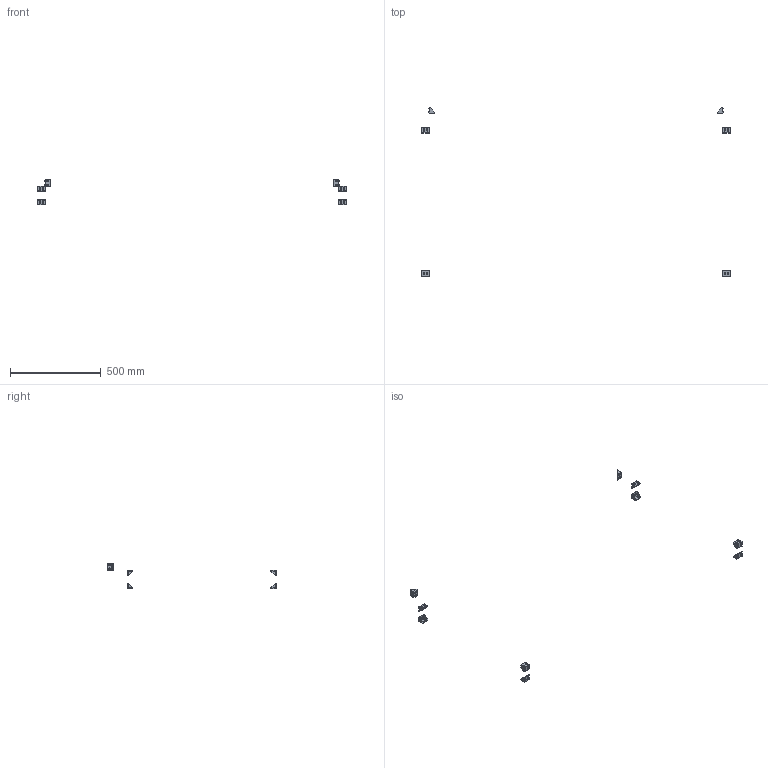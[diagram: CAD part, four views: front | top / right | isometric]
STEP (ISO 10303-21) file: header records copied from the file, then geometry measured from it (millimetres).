
FILE_DESCRIPTION(/* description */ (''),/* implementation_level */ '2;1');
FILE_NAME(/* name */ 'FRA9D3~1',/* time_stamp */ '2014-02-14T19:33:18+01:00',/* author */ (''),/* organization */ (''),/* preprocessor_version */ 'ST-DEVELOPER v14',/* originating_system */ '',/* authorisation */ '');
FILE_SCHEMA (('AUTOMOTIVE_DESIGN'));
Length unit declared in the file: millimetre
Products named in the file (2): Document; angle bracket, semi, double
Assembly tree (5 placements, depth 2):
  Document
    angle bracket, semi, double  x5
Bounding box: 1700 x 931 x 141 mm (x, y, z)
Volume: 107025.9 mm3; surface area: 68936.1 mm2
Topology: 10 solids, 10 shells, 1210 faces, 3390 edges, 2260 vertices
Faces by surface type: plane 800, bspline 410
Entity records: 47043 total; most frequent: CARTESIAN_POINT 21284, B_SPLINE_CURVE_WITH_KNOTS 4146, ORIENTED_EDGE 4068, PCURVE 4068, DEFINITIONAL_REPRESENTATION 4068, SURFACE_CURVE 2034, EDGE_CURVE 2034, VERTEX_POINT 1356
